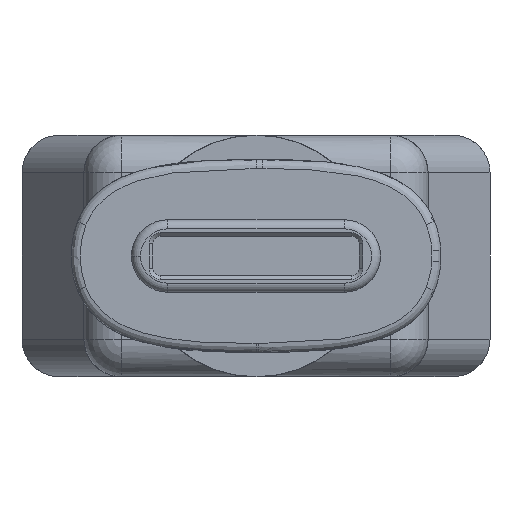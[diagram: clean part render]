
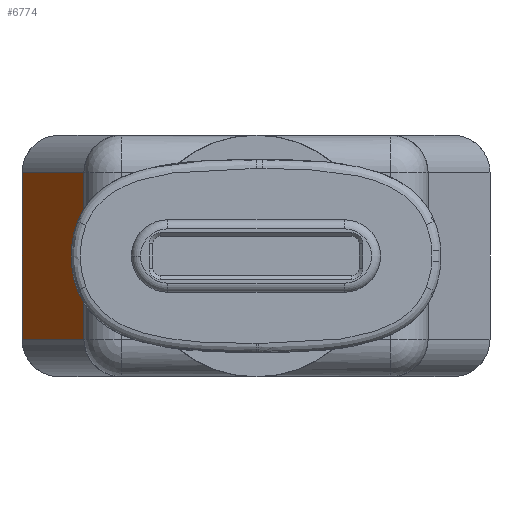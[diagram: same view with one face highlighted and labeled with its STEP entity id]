
A CAD part, front view. The second image highlights one B-rep face of the part: STEP entity #6774.
In plain terms, the highlighted planar face has unit normal (-0.826, -0.564, 0).
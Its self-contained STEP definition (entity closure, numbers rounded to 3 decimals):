
#13 = DIRECTION ( 'NONE',  ( 0., 0., -1. ) ) ;
#172 = LINE ( 'NONE', #11332, #2326 ) ;
#1071 = ORIENTED_EDGE ( 'NONE', *, *, #13834, .F. ) ;
#1422 = VERTEX_POINT ( 'NONE', #2958 ) ;
#1932 = DIRECTION ( 'NONE',  ( 0.826, 0.564, 0. ) ) ;
#2074 = CARTESIAN_POINT ( 'NONE',  ( -5.7, -23.5, 4. ) ) ;
#2096 = AXIS2_PLACEMENT_3D ( 'NONE', #2074, #1932, #7508 ) ;
#2326 = VECTOR ( 'NONE', #10229, 1000. ) ;
#2958 = CARTESIAN_POINT ( 'NONE',  ( -7.75, -20.5, -2.75 ) ) ;
#2968 = CARTESIAN_POINT ( 'NONE',  ( -5.7, -23.5, -2.75 ) ) ;
#3056 = EDGE_CURVE ( 'NONE', #12665, #1422, #172, .T. ) ;
#3076 = VERTEX_POINT ( 'NONE', #4709 ) ;
#4168 = DIRECTION ( 'NONE',  ( 0.564, -0.826, 0. ) ) ;
#4709 = CARTESIAN_POINT ( 'NONE',  ( -5.7, -23.5, 2.75 ) ) ;
#5205 = VECTOR ( 'NONE', #6015, 1000. ) ;
#6015 = DIRECTION ( 'NONE',  ( -0.564, 0.826, 0. ) ) ;
#6774 = ADVANCED_FACE ( 'NONE', ( #10048 ), #8625, .F. ) ;
#6786 = EDGE_CURVE ( 'NONE', #1422, #9505, #14576, .T. ) ;
#6998 = LINE ( 'NONE', #11475, #9471 ) ;
#7014 = ORIENTED_EDGE ( 'NONE', *, *, #6786, .T. ) ;
#7125 = LINE ( 'NONE', #11676, #5205 ) ;
#7508 = DIRECTION ( 'NONE',  ( -0.564, 0.826, 0. ) ) ;
#8625 = PLANE ( 'NONE',  #2096 ) ;
#9471 = VECTOR ( 'NONE', #13, 1000. ) ;
#9505 = VERTEX_POINT ( 'NONE', #11741 ) ;
#9717 = CARTESIAN_POINT ( 'NONE',  ( -7.75, -20.5, 2.75 ) ) ;
#10048 = FACE_OUTER_BOUND ( 'NONE', #10390, .T. ) ;
#10229 = DIRECTION ( 'NONE',  ( 0., 0., -1. ) ) ;
#10390 = EDGE_LOOP ( 'NONE', ( #11928, #7014, #1071, #11384 ) ) ;
#11332 = CARTESIAN_POINT ( 'NONE',  ( -7.75, -20.5, 4. ) ) ;
#11384 = ORIENTED_EDGE ( 'NONE', *, *, #13433, .T. ) ;
#11475 = CARTESIAN_POINT ( 'NONE',  ( -5.7, -23.5, 4. ) ) ;
#11676 = CARTESIAN_POINT ( 'NONE',  ( -5.7, -23.5, 2.75 ) ) ;
#11741 = CARTESIAN_POINT ( 'NONE',  ( -5.7, -23.5, -2.75 ) ) ;
#11928 = ORIENTED_EDGE ( 'NONE', *, *, #3056, .T. ) ;
#12665 = VERTEX_POINT ( 'NONE', #9717 ) ;
#13433 = EDGE_CURVE ( 'NONE', #3076, #12665, #7125, .T. ) ;
#13834 = EDGE_CURVE ( 'NONE', #3076, #9505, #6998, .T. ) ;
#13984 = VECTOR ( 'NONE', #4168, 1000. ) ;
#14576 = LINE ( 'NONE', #2968, #13984 ) ;
